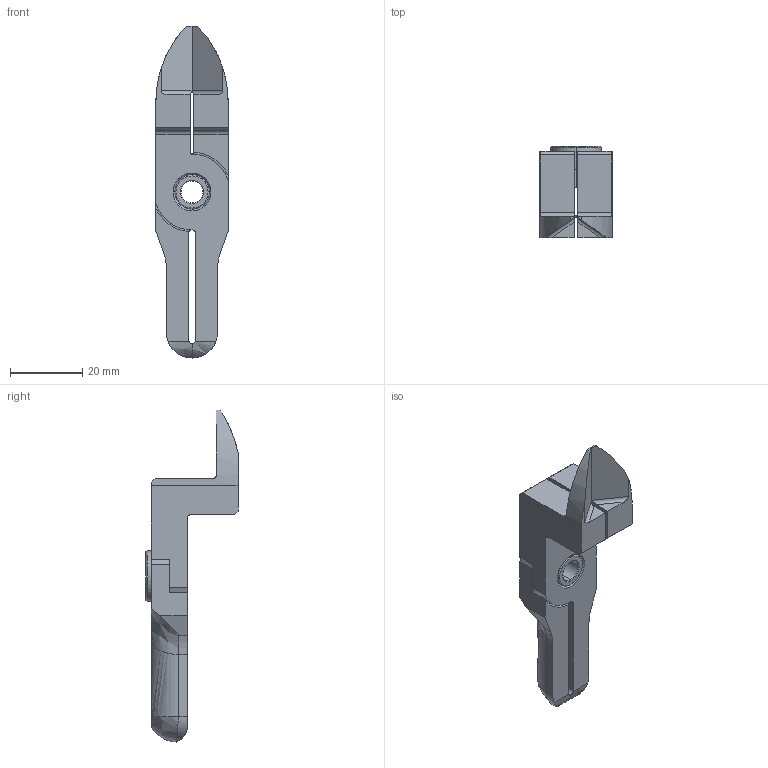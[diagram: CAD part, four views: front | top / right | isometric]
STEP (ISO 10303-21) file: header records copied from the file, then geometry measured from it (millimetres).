
FILE_DESCRIPTION (( 'STEP AP214' ), '1' );
FILE_NAME ('NY25AH.STEP', '2019-11-28T05:17:22', ( '微软用户' ), ( '微软中国' ), 'SwSTEP 2.0', 'SolidWorks 2016', '' );
FILE_SCHEMA (( 'AUTOMOTIVE_DESIGN' ));
Length unit declared in the file: millimetre
Products named in the file (4): BR2; BR1; BS; NY25AH
Assembly tree (3 placements, depth 2):
  NY25AH
    BS
    BR1
    BR2
Bounding box: 20 x 25.5 x 92 mm (x, y, z)
Volume: 13977.5 mm3; surface area: 8708.6 mm2
Topology: 3 solids, 3 shells, 131 faces, 343 edges, 219 vertices
Faces by surface type: plane 49, cylinder 36, cone 22, bspline 20, torus 4
Entity records: 4581 total; most frequent: CARTESIAN_POINT 1378, ORIENTED_EDGE 678, DIRECTION 601, EDGE_CURVE 339, AXIS2_PLACEMENT_3D 219, VERTEX_POINT 219, LINE 163, VECTOR 163
